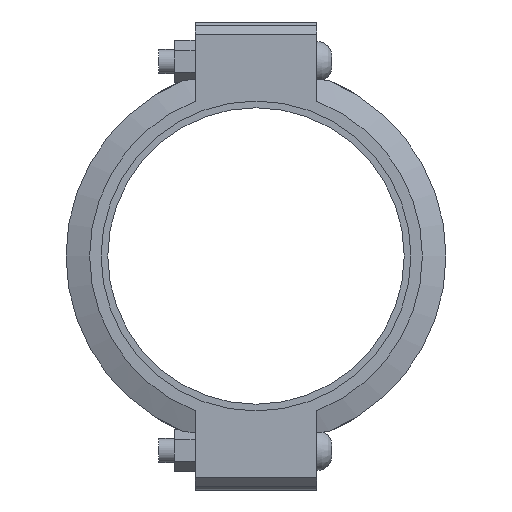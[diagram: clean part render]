
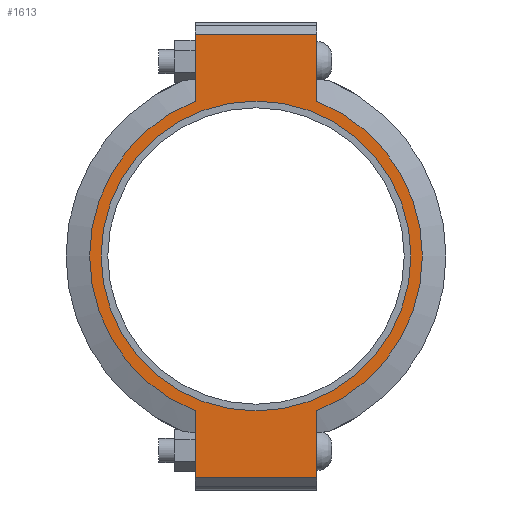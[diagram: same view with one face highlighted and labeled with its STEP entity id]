
A CAD part, left-side view. The second image highlights one B-rep face of the part: STEP entity #1613.
In plain terms, the highlighted planar face has unit normal (-1, 0, 0) as drawn and (0, 0, 1) by its records, which use the part's own axes.
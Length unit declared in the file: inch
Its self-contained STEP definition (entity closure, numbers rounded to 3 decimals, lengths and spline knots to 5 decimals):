
#184=LINE('',#2778,#273);
#195=LINE('',#2829,#284);
#201=LINE('',#2855,#290);
#203=LINE('',#2858,#292);
#204=LINE('',#2863,#293);
#205=LINE('',#2864,#294);
#273=VECTOR('',#2262,0.3937);
#284=VECTOR('',#2293,0.3937);
#290=VECTOR('',#2311,0.3937);
#292=VECTOR('',#2315,0.3937);
#293=VECTOR('',#2320,0.3937);
#294=VECTOR('',#2321,0.3937);
#356=FACE_BOUND('',#533,.T.);
#424=FACE_OUTER_BOUND('',#532,.T.);
#532=EDGE_LOOP('',(#1308,#1309,#1310,#1311,#1312,#1313,#1314,#1315));
#533=EDGE_LOOP('',(#1316));
#615=CIRCLE('',#1832,6.375);
#639=CIRCLE('',#1884,6.84375);
#640=CIRCLE('',#1885,6.84375);
#711=VERTEX_POINT('',#2604);
#752=VERTEX_POINT('',#2775);
#753=VERTEX_POINT('',#2777);
#770=VERTEX_POINT('',#2824);
#771=VERTEX_POINT('',#2828);
#778=VERTEX_POINT('',#2850);
#779=VERTEX_POINT('',#2854);
#780=VERTEX_POINT('',#2860);
#781=VERTEX_POINT('',#2862);
#875=EDGE_CURVE('',#711,#711,#615,.T.);
#932=EDGE_CURVE('',#753,#752,#184,.T.);
#953=EDGE_CURVE('',#771,#770,#195,.T.);
#964=EDGE_CURVE('',#779,#778,#201,.T.);
#966=EDGE_CURVE('',#779,#752,#203,.T.);
#967=EDGE_CURVE('',#778,#780,#639,.T.);
#968=EDGE_CURVE('',#780,#781,#204,.T.);
#969=EDGE_CURVE('',#771,#781,#205,.T.);
#970=EDGE_CURVE('',#770,#753,#640,.T.);
#1308=ORIENTED_EDGE('',*,*,#966,.F.);
#1309=ORIENTED_EDGE('',*,*,#964,.T.);
#1310=ORIENTED_EDGE('',*,*,#967,.T.);
#1311=ORIENTED_EDGE('',*,*,#968,.T.);
#1312=ORIENTED_EDGE('',*,*,#969,.F.);
#1313=ORIENTED_EDGE('',*,*,#953,.T.);
#1314=ORIENTED_EDGE('',*,*,#970,.T.);
#1315=ORIENTED_EDGE('',*,*,#932,.T.);
#1316=ORIENTED_EDGE('',*,*,#875,.T.);
#1453=PLANE('',#1883);
#1613=ADVANCED_FACE('',(#424,#356),#1453,.T.);
#1832=AXIS2_PLACEMENT_3D('',#2606,#2152,#2153);
#1883=AXIS2_PLACEMENT_3D('',#2859,#2316,#2317);
#1884=AXIS2_PLACEMENT_3D('',#2861,#2318,#2319);
#1885=AXIS2_PLACEMENT_3D('',#2865,#2322,#2323);
#2152=DIRECTION('center_axis',(0.,0.,-1.));
#2153=DIRECTION('ref_axis',(-1.,0.,0.));
#2262=DIRECTION('',(-1.,0.,0.));
#2293=DIRECTION('',(-1.,0.,0.));
#2311=DIRECTION('',(1.,0.,0.));
#2315=DIRECTION('',(0.,1.,0.));
#2316=DIRECTION('center_axis',(0.,0.,1.));
#2317=DIRECTION('ref_axis',(1.,0.,0.));
#2318=DIRECTION('center_axis',(0.,0.,1.));
#2319=DIRECTION('ref_axis',(-1.,0.,0.));
#2320=DIRECTION('',(1.,0.,0.));
#2321=DIRECTION('',(0.,-1.,0.));
#2322=DIRECTION('center_axis',(0.,0.,1.));
#2323=DIRECTION('ref_axis',(-1.,0.,0.));
#2604=CARTESIAN_POINT('',(6.375,0.,1.315));
#2606=CARTESIAN_POINT('Origin',(0.,0.,1.315));
#2775=CARTESIAN_POINT('',(-9.125,2.5,1.315));
#2777=CARTESIAN_POINT('',(-6.37079,2.5,1.315));
#2778=CARTESIAN_POINT('',(9.625,2.5,1.315));
#2824=CARTESIAN_POINT('',(6.37079,2.5,1.315));
#2828=CARTESIAN_POINT('',(9.125,2.5,1.315));
#2829=CARTESIAN_POINT('',(9.625,2.5,1.315));
#2850=CARTESIAN_POINT('',(-6.37079,-2.5,1.315));
#2854=CARTESIAN_POINT('',(-9.125,-2.5,1.315));
#2855=CARTESIAN_POINT('',(-9.625,-2.5,1.315));
#2858=CARTESIAN_POINT('',(-9.125,1.25,1.315));
#2859=CARTESIAN_POINT('Origin',(0.,0.,
1.315));
#2860=CARTESIAN_POINT('',(6.37079,-2.5,1.315));
#2861=CARTESIAN_POINT('Origin',(0.,0.,1.315));
#2862=CARTESIAN_POINT('',(9.125,-2.5,1.315));
#2863=CARTESIAN_POINT('',(-9.625,-2.5,1.315));
#2864=CARTESIAN_POINT('',(9.125,-1.25,1.315));
#2865=CARTESIAN_POINT('Origin',(0.,0.,1.315));
